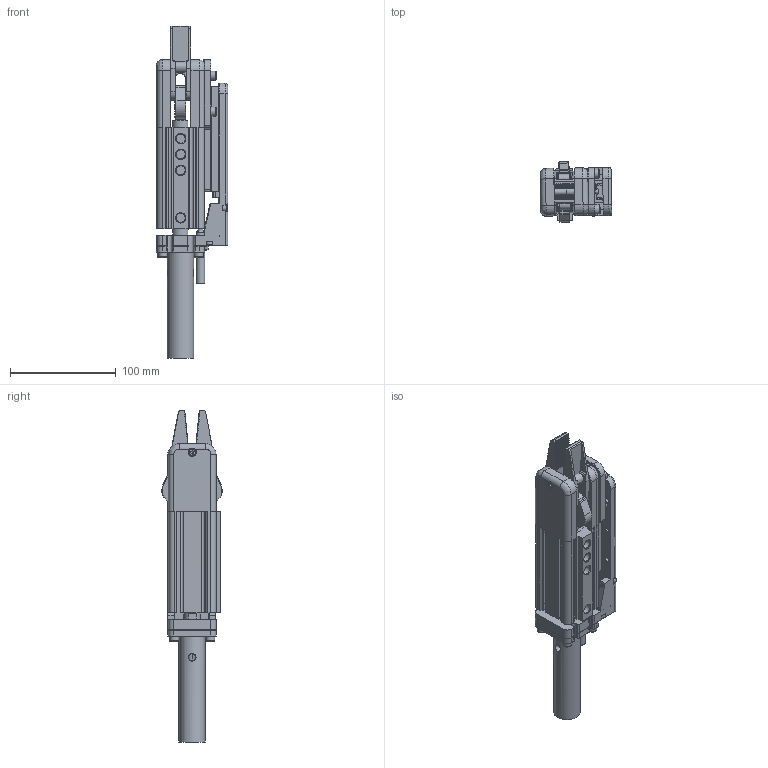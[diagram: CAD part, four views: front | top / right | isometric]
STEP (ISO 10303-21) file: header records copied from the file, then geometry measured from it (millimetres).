
FILE_DESCRIPTION(/* description */ (''),/* implementation_level */ '2;1');
FILE_NAME(/* name */ '8Y00315-GRP32A-30--25.stp',/* time_stamp */ '2023-02-22T11:48:58+08:00',/* author */ (''),/* organization */ (''),/* preprocessor_version */ 'ST-DEVELOPER v16',/* originating_system */ 'SIEMENS PLM Software NX 10.0',/* authorisation */ '');
FILE_SCHEMA (('AUTOMOTIVE_DESIGN { 1 0 10303 214 3 1 1 1 }'));
Length unit declared in the file: millimetre
Products named in the file (1): _model35
Bounding box: 67.52 x 57.07 x 313.95 mm (x, y, z)
Volume: 385446.2 mm3; surface area: 155020.3 mm2
Topology: 14 solids, 35 shells, 1378 faces, 3452 edges, 2170 vertices
Faces by surface type: plane 886, cylinder 306, cone 143, torus 25, revolution 14, bspline 4
Full cylindrical faces by diameter (mm): 2.5 x2, 3.242 x2, 3.3 x6, 4 x10, 4.1 x1, 4.2 x14, 4.5 x10, 5 x13, 5.2 x8, 5.5 x8, 6 x8, 6.5 x1, 6.647 x1, 7 x12, 8 x9, 8.5 x13, 8.566 x4, 9 x12, 10 x6, 13 x1, 13.5 x1, 14 x1, 15 x2, 16 x3, 17 x12, 20 x3, 21 x2, 25 x1, 32 x2, 34 x3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
Entity records: 49133 total; most frequent: CARTESIAN_POINT 8187, DIRECTION 6518, ORIENTED_EDGE 5920, EDGE_CURVE 2960, AXIS2_PLACEMENT_3D 2290, VERTEX_POINT 2063, LINE 1924, VECTOR 1924
